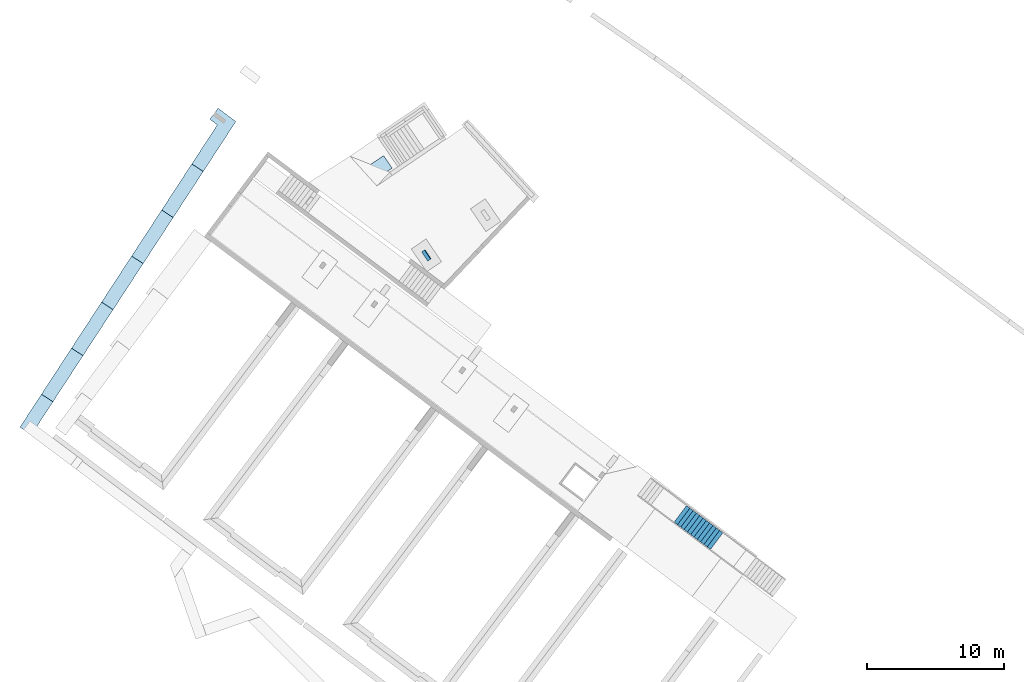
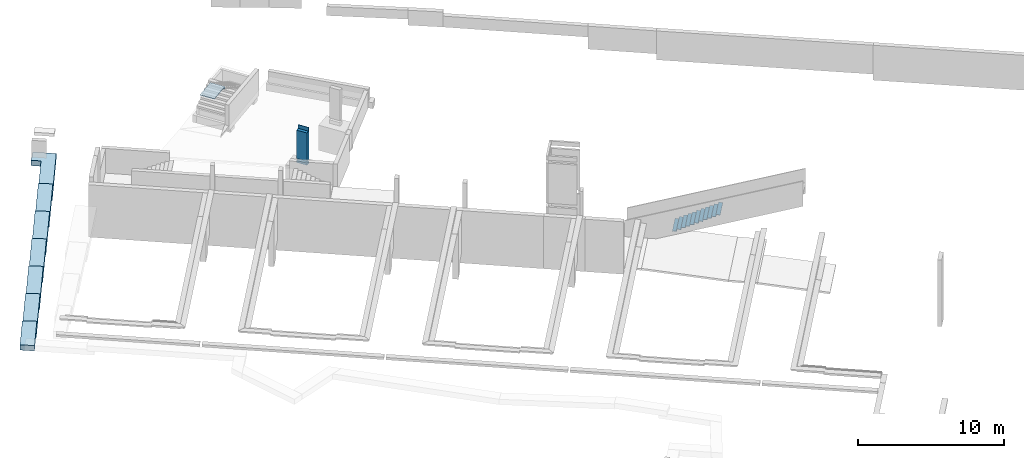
# One storey, part 5 of 11: 2 slabs, 1 column, 1 stair flight, 2 elements without a shape of their own.
"""IFC2X3 building model written with IfcOpenShell, lengths in metres."""

from ifc_helpers import new_model, entity, si_unit, converted_unit, derived_unit, direction, frame, origin, place, context, subcontext, project, spatial, faceted_brep, source, transform, mapped, material, material_list, type_object, type_shapes, element, aggregate, save


model = new_model("IFC2X3")

# Units and contexts
model_context = context("Model", 3, precision=1e-05, world=origin(), true_north=direction((6.123031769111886e-17, 1.0)))
body_context = subcontext(model_context, "Body", "Model", "MODEL_VIEW")
ifc_project = project(units=[si_unit("LENGTHUNIT", "METRE"), si_unit("AREAUNIT", "SQUARE_METRE"), si_unit("VOLUMEUNIT", "CUBIC_METRE"), converted_unit("PLANEANGLEUNIT", "DEGREE", entity("IfcRatioMeasure", 0.017453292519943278), si_unit("PLANEANGLEUNIT", "RADIAN"), dimensions=[0, 0, 0, 0, 0, 0, 0]), si_unit("MASSUNIT", "GRAM", prefix="KILO"), derived_unit("MASSDENSITYUNIT", [(si_unit("MASSUNIT", "GRAM", prefix="KILO"), 1), (si_unit("LENGTHUNIT", "METRE"), -3)]), derived_unit("IONCONCENTRATIONUNIT", [(si_unit("MASSUNIT", "GRAM", prefix="KILO"), 1), (si_unit("LENGTHUNIT", "METRE"), -3)]), derived_unit("MOMENTOFINERTIAUNIT", [(si_unit("LENGTHUNIT", "METRE"), 4)]), si_unit("TIMEUNIT", "SECOND"), si_unit("FREQUENCYUNIT", "HERTZ"), si_unit("THERMODYNAMICTEMPERATUREUNIT", "DEGREE_CELSIUS"), derived_unit("THERMALTRANSMITTANCEUNIT", [(si_unit("MASSUNIT", "GRAM", prefix="KILO"), 1), (si_unit("THERMODYNAMICTEMPERATUREUNIT", "KELVIN"), -1), (si_unit("TIMEUNIT", "SECOND"), -3)]), derived_unit("THERMALCONDUCTANCEUNIT", [(si_unit("MASSUNIT", "GRAM", prefix="KILO"), 1), (si_unit("THERMODYNAMICTEMPERATUREUNIT", "KELVIN"), -1), (si_unit("TIMEUNIT", "SECOND"), -3), (si_unit("LENGTHUNIT", "METRE"), 1)]), derived_unit("VOLUMETRICFLOWRATEUNIT", [(si_unit("LENGTHUNIT", "METRE"), 3), (si_unit("TIMEUNIT", "SECOND"), -1)]), derived_unit("MASSFLOWRATEUNIT", [(si_unit("MASSUNIT", "GRAM", prefix="KILO"), 1), (si_unit("TIMEUNIT", "SECOND"), -1)]), derived_unit("ROTATIONALFREQUENCYUNIT", [(si_unit("TIMEUNIT", "SECOND"), -1)]), si_unit("ELECTRICCURRENTUNIT", "AMPERE"), si_unit("ELECTRICVOLTAGEUNIT", "VOLT"), si_unit("POWERUNIT", "WATT"), si_unit("FORCEUNIT", "NEWTON", prefix="KILO"), si_unit("ILLUMINANCEUNIT", "LUX"), si_unit("LUMINOUSFLUXUNIT", "LUMEN"), si_unit("LUMINOUSINTENSITYUNIT", "CANDELA"), derived_unit("USERDEFINED", [(si_unit("MASSUNIT", "GRAM", prefix="KILO"), -1), (si_unit("LENGTHUNIT", "METRE"), -2), (si_unit("TIMEUNIT", "SECOND"), 3), (si_unit("LUMINOUSFLUXUNIT", "LUMEN"), 1)]), derived_unit("USERDEFINED", [(si_unit("MASSUNIT", "GRAM", prefix="KILO"), 1), (si_unit("TIMEUNIT", "SECOND"), -3), (si_unit("LENGTHUNIT", "METRE"), 3), (si_unit("ELECTRICCURRENTUNIT", "AMPERE"), -2)]), derived_unit("SOUNDPOWERUNIT", [(si_unit("MASSUNIT", "GRAM", prefix="KILO"), 1), (si_unit("TIMEUNIT", "SECOND"), -3), (si_unit("LENGTHUNIT", "METRE"), 2)]), derived_unit("SOUNDPRESSUREUNIT", [(si_unit("MASSUNIT", "GRAM", prefix="KILO"), 1), (si_unit("LENGTHUNIT", "METRE"), -1), (si_unit("TIMEUNIT", "SECOND"), -2)]), derived_unit("LINEARVELOCITYUNIT", [(si_unit("LENGTHUNIT", "METRE"), 1), (si_unit("TIMEUNIT", "SECOND"), -1)]), si_unit("PRESSUREUNIT", "PASCAL"), derived_unit("USERDEFINED", [(si_unit("MASSUNIT", "GRAM", prefix="KILO"), 1), (si_unit("LENGTHUNIT", "METRE"), -2), (si_unit("TIMEUNIT", "SECOND"), -2)]), derived_unit("LINEARFORCEUNIT", [(si_unit("MASSUNIT", "GRAM", prefix="KILO"), 1), (si_unit("TIMEUNIT", "SECOND"), -2)]), derived_unit("PLANARFORCEUNIT", [(si_unit("MASSUNIT", "GRAM", prefix="KILO"), 1), (si_unit("LENGTHUNIT", "METRE"), -1), (si_unit("TIMEUNIT", "SECOND"), -2)]), derived_unit("SPECIFICHEATCAPACITYUNIT", [(si_unit("THERMODYNAMICTEMPERATUREUNIT", "KELVIN"), -1), (si_unit("LENGTHUNIT", "METRE"), 2), (si_unit("TIMEUNIT", "SECOND"), -2)]), derived_unit("HEATINGVALUEUNIT", [(si_unit("LENGTHUNIT", "METRE"), 2), (si_unit("TIMEUNIT", "SECOND"), -2)]), derived_unit("VAPORPERMEABILITYUNIT", [(si_unit("LENGTHUNIT", "METRE"), -1), (si_unit("TIMEUNIT", "SECOND"), 1)]), derived_unit("DYNAMICVISCOSITYUNIT", [(si_unit("MASSUNIT", "GRAM", prefix="KILO"), 1), (si_unit("TIMEUNIT", "SECOND"), -1), (si_unit("LENGTHUNIT", "METRE"), -1)]), derived_unit("THERMALEXPANSIONCOEFFICIENTUNIT", [(si_unit("THERMODYNAMICTEMPERATUREUNIT", "KELVIN"), -1)]), derived_unit("MODULUSOFELASTICITYUNIT", [(si_unit("MASSUNIT", "GRAM", prefix="KILO"), 1), (si_unit("LENGTHUNIT", "METRE"), -1), (si_unit("TIMEUNIT", "SECOND"), -2)]), derived_unit("ISOTHERMALMOISTURECAPACITYUNIT", [(si_unit("LENGTHUNIT", "METRE"), 3), (si_unit("MASSUNIT", "GRAM", prefix="KILO"), -1)]), derived_unit("MOISTUREDIFFUSIVITYUNIT", [(si_unit("TIMEUNIT", "SECOND"), -1), (si_unit("LENGTHUNIT", "METRE"), 2)])], contexts=[model_context])

# Site, building, storey
site_placement = place(None, origin())
site = spatial("IfcSite", under=ifc_project, at=site_placement, Name="Default", CompositionType="ELEMENT")
building_placement = place(site_placement, frame((0.0, 0.0, 235.0), z_axis=(0.0, 0.0, 1.0), x_axis=(-0.7996477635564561, 0.6004693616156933, 0.0)))
building = spatial("IfcBuilding", under=site, at=building_placement, CompositionType="ELEMENT")
storey_placement = place(building_placement, frame((0.0, 0.0, -4.459999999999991)))
storey = spatial("IfcBuildingStorey", under=building, at=storey_placement, Name="PS1- Vestuari", CompositionType="ELEMENT", Elevation=-4.459999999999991)

# Column
ifc_material_1 = material(Name="_Formigó- T1- STR")
column_type = type_object("IfcColumnType", Name="STR- P- Formigó- Rectangular- T1:30x80 cm", PredefinedType="COLUMN", material=ifc_material_1)
shared_shape = source(origin(), body_context, "Body", "Brep", [
    faceted_brep([(0.09724667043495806, 0.5431255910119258, 0.0), (0.8540497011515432, 0.28380113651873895, 0.0), (0.7568030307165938, 0.0, 0.0), (0.0, 0.2593244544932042, 0.0), (0.8540497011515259, 0.2838011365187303, 0.18753967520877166), (0.0972466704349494, 0.5431255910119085, 0.1823531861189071), (0.0, 0.2593244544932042, 0.18802920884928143), (0.7568030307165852, 0.0, 0.19321569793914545)], [[[0, 1, 2, 3]], [[4, 5, 6, 7]], [[1, 0, 5, 4]], [[2, 1, 4, 7]], [[3, 2, 7, 6]], [[0, 3, 6, 5]]]),
    faceted_brep([(0.8540497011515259, 0.2838011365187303, 0.3375696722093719), (0.0972466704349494, 0.5431255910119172, 0.3323831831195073), (0.0972466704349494, 0.5431255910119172, 2.699999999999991), (0.8540497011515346, 0.2838011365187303, 2.699999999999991), (0.7568030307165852, 0.0, 0.34324569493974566), (0.7730108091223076, 0.04730018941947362, 2.699999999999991), (0.7730108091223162, 0.047300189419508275, 3.0), (0.7568030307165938, 0.0, 3.0), (0.0, 0.2593244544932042, 0.33805920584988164), (0.0, 0.2593244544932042, 3.0), (0.016207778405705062, 0.30662464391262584, 3.0), (0.016207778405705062, 0.3066246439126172, 2.699999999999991)], [[[0, 1, 2, 3]], [[4, 0, 3, 5, 6, 7]], [[8, 4, 7, 9]], [[1, 8, 9, 10, 11, 2]], [[1, 0, 4, 8]], [[7, 6, 10, 9]], [[5, 11, 10, 6]], [[11, 5, 3, 2]]]),
])
type_shapes(column_type, [shared_shape])
column_placement = place(storey_placement, frame((60.5777586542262, -45.30247650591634, 0.9399999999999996)))
element("IfcColumn", 1, at=column_placement, inside=storey, type_object=column_type, material=ifc_material_1, Name="STR- P- Formigó- Rectangular- T1:30x80 cm", ObjectType="STR- P- Formigó- Rectangular- T1:30x80 cm", context=body_context, shape_type="MappedRepresentation", body=[
    mapped(shared_shape, transform((0.0, 0.0, 0.0), scale=1.0)),
])

# Slab
slab_type_1 = type_object("IfcSlabType", Name="STR- S- formigó- Mp1:STR- S- formigó- Mp7", PredefinedType="BASESLAB", material=ifc_material_1)
slab_1_placement = place(storey_placement, frame((76.13815440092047, -44.49052213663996, 0.20999999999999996)))
element("IfcSlab", 2, at=slab_1_placement, inside=storey, type_object=slab_type_1, Name="STR- S- formigó- Mp1:STR- S- formigó- Mp7", ObjectType="STR- S- formigó- Mp1:STR- S- formigó- Mp7", PredefinedType="BASESLAB", context=body_context, shape_type="Brep", body=[
    faceted_brep([(1.7910725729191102, 0.0, 0.45), (2.3067834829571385, 0.0, 0.45), (3.4067670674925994, 0.0, 0.45), (3.4067670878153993, 1.0, 0.45), (2.7273834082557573, 1.0, 0.45), (2.638924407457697, 2.34323328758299, 0.45), (2.5994112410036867, 2.9432332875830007, 0.45), (2.503970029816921, 4.392490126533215, 0.45), (1.5061314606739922, 4.326777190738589, 0.45), (2.4645422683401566, 4.991193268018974, 0.0), (2.5994112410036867, 2.9432332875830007, 0.0), (2.7273834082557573, 1.0, 0.0), (3.4067670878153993, 1.0, 0.0), (3.4067670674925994, 0.0, 0.0), (2.3067834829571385, 0.0, 0.0), (1.7910725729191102, 0.0, 0.0), (1.4667036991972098, 4.92548033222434, 0.0), (1.5061314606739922, 4.326777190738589, 0.9500000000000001), (2.3067834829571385, 4.3795043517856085, 0.9500000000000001), (2.5039700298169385, 4.392490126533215, 0.9500000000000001), (2.335990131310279, 6.943233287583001, 0.9500000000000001), (2.241118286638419, 8.383844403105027, 0.9500000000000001), (1.2432797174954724, 8.318131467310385, 0.9500000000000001), (1.2038519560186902, 8.916834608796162, 0.5), (2.2016905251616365, 8.982547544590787, 0.5), (2.4645422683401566, 4.991193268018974, 0.5), (1.4667036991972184, 4.925480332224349, 0.5), (1.2038519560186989, 8.916834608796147, 1.0), (2.2016905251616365, 8.982547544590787, 1.0), (1.2432797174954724, 8.318131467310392, 1.4500000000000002), (0.9804279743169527, 12.309485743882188, 1.4500000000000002), (0.9804279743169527, 12.309485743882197, 1.9500000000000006), (0.717576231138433, 16.300840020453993, 1.9500000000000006), (0.7175762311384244, 16.300840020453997, 2.45), (0.4547244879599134, 20.292194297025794, 2.45), (0.4547244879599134, 20.292194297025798, 2.95), (0.19187274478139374, 24.2835485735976, 2.95), (0.19187274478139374, 24.283548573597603, 3.45), (0.0, 27.197100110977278, 3.45), (0.0, 27.197100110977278, 3.0), (0.15244498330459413, 24.88225171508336, 3.0), (0.15244498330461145, 24.88225171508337, 2.4999999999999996), (0.41529672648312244, 20.890897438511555, 2.4999999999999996), (0.41529672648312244, 20.89089743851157, 2.0), (0.6781484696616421, 16.899543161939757, 2.0), (0.6781484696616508, 16.899543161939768, 1.5000000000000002), (0.9410002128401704, 12.908188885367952, 1.5000000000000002), (0.9410002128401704, 12.908188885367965, 1.0), (2.5039700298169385, 4.392490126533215, 0.8), (1.938838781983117, 12.97390182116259, 1.0), (1.938838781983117, 12.97390182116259, 1.5000000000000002), (1.6759870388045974, 16.965256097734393, 1.5000000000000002), (1.6759870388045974, 16.965256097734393, 2.0), (1.413135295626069, 20.956610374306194, 2.0), (1.4131352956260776, 20.956610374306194, 2.4999999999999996), (1.150283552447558, 24.947964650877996, 2.4999999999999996), (1.150283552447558, 24.947964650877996, 3.0), (1.0021661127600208, 27.197100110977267, 3.0), (1.0021661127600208, 27.197100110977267, 3.45), (1.189711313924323, 24.34926150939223, 3.45), (1.1897113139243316, 24.349261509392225, 2.95), (1.4525630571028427, 20.357907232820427, 2.95), (1.4525630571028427, 20.357907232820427, 2.45), (1.715414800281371, 16.36655295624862, 2.45), (1.7154148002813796, 16.366552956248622, 1.9500000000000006), (1.9782665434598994, 12.375198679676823, 1.9500000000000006), (1.9782665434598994, 12.375198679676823, 1.4500000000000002), (2.241118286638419, 8.383844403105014, 1.4500000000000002)], [[[0, 1, 2, 3, 4, 5, 6, 7, 8]], [[9, 10, 11, 12, 13, 14, 15, 16]], [[2, 1, 0, 15, 14, 13]], [[3, 2, 13, 12]], [[4, 3, 12, 11]], [[17, 18, 19, 20, 21, 22]], [[23, 24, 25, 26]], [[24, 23, 27, 28]], [[23, 26, 16, 15, 0, 8, 17, 22, 29, 30, 31, 32, 33, 34, 35, 36, 37, 38, 39, 40, 41, 42, 43, 44, 45, 46, 47, 27]], [[19, 18, 17, 8, 7, 48]], [[25, 24, 28, 49, 50, 51, 52, 53, 54, 55, 56, 57, 58, 59, 60, 61, 62, 63, 64, 65, 66, 67, 21, 20, 19, 48, 7, 6, 5, 4, 11, 10, 9]], [[26, 25, 9, 16]], [[29, 67, 66, 30]], [[47, 49, 28, 27]], [[49, 47, 46, 50]], [[67, 29, 22, 21]], [[30, 66, 65, 31]], [[31, 65, 64, 32]], [[45, 51, 50, 46]], [[51, 45, 44, 52]], [[32, 64, 63, 33]], [[33, 63, 62, 34]], [[43, 53, 52, 44]], [[53, 43, 42, 54]], [[34, 62, 61, 35]], [[35, 61, 60, 36]], [[41, 55, 54, 42]], [[55, 41, 40, 56]], [[37, 36, 60, 59]], [[58, 38, 37, 59]], [[39, 57, 56, 40]], [[38, 58, 57, 39]]]),
])

# Stair, slab
stair_1_placement = place(storey_placement, origin())
stair_1 = element("IfcStair", 3, at=stair_1_placement, inside=storey, Name="Escalera moldeada in situ:Escalera", ShapeType="STRAIGHT_RUN_STAIR")
ifc_material_2 = material(Name="_PAV escales STR")
ifc_material_3 = material(Name="_Acer- STR")
ifc_material_list = material_list([ifc_material_2, ifc_material_3])
slab_type_2 = type_object("IfcSlabType", Name="Descansillo monolítico:STR- Repla acer", PredefinedType="LANDING")
slab_2_placement = place(stair_1_placement, frame((66.80926125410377, -48.9620516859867, 0.0)))
slab_2 = element("IfcSlab", 4, at=slab_2_placement, type_object=slab_type_2, material=ifc_material_list, Name="Escalera moldeada in situ:Escalera:92117 Landing 1", ObjectType="Descansillo monolítico:STR- Repla acer", PredefinedType="LANDING", context=body_context, shape_type="Brep", body=[
    faceted_brep([(0.0, 0.35657112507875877, 4.339999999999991), (1.0406041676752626, 0.0, 4.339999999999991), (1.5722510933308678, 1.5516861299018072, 4.339999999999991), (0.5316469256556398, 1.9082572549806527, 4.339999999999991), (0.0, 0.35657112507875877, 4.309999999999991), (0.5316469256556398, 1.9082572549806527, 4.309999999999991), (1.5722510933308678, 1.5516861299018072, 4.309999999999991), (1.0406041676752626, 0.0, 4.309999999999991)], [[[0, 1, 2, 3]], [[4, 5, 6, 7]], [[1, 0, 4, 7]], [[2, 1, 7, 6]], [[3, 2, 6, 5]], [[0, 3, 5, 4]]]),
    faceted_brep([(0.0, 0.35657112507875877, 4.309999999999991), (1.0406041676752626, 0.0, 4.309999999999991), (1.043845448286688, 0.009460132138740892, 4.309999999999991), (1.5722510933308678, 1.5516861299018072, 4.309999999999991), (0.5316469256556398, 1.9082572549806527, 4.309999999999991), (0.0032412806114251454, 0.3660312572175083, 4.309999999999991), (1.0406041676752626, 0.0, 4.123999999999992), (1.0438454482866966, 0.009460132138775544, 4.123999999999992), (1.0438454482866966, 0.009460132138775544, 4.299999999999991), (1.5722510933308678, 1.5516861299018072, 4.299999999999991), (0.5316469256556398, 1.9082572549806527, 4.299999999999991), (0.0, 0.35657112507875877, 4.123999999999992), (0.0032412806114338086, 0.3660312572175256, 4.299999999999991), (0.0032412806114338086, 0.3660312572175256, 4.123999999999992)], [[[0, 1, 2, 3, 4, 5]], [[1, 6, 7, 8, 9, 3, 2]], [[4, 3, 9, 10]], [[11, 0, 5, 4, 10, 12, 13]], [[1, 0, 11, 6]], [[8, 12, 10, 9]], [[13, 7, 6, 11]], [[7, 13, 12, 8]]]),
])
aggregate(stair_1, [slab_2])

# Stair, stair flight
stair_2_placement = place(storey_placement, origin())
stair_2 = element("IfcStair", 5, at=stair_2_placement, inside=storey, Name="Escalera moldeada in situ:Escalera", ObjectType="Escalera moldeada in situ:E-A1", ShapeType="NOTDEFINED")
stair_flight_type = type_object("IfcStairFlightType", Name="Tramo monolítico:E00- STR- Acer", PredefinedType="STRAIGHT")
stair_flight_placement = place(stair_2_placement, frame((31.64514768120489, -41.83719175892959, 0.0)))
stair_flight = element("IfcStairFlight", 6, at=stair_flight_placement, type_object=stair_flight_type, material=ifc_material_list, Name="Escalera moldeada in situ:Escalera:43273 Run 2", ObjectType="Tramo monolítico:E00- STR- Acer", NumberOfRiser=12, NumberOfTreads=11, RiserHeight=0.5249343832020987, TreadLength=0.9842519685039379, context=body_context, shape_type="Brep", body=[
    faceted_brep([(3.0, 0.0, 0.7199999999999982), (3.3000000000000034, 0.0, 0.7199999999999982), (3.3000000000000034, 1.5000000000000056, 0.7199999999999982), (3.0, 1.5000000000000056, 0.7199999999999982), (3.0, 0.0, 0.689999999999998), (3.0, 1.5000000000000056, 0.689999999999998), (3.3000000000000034, 1.5000000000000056, 0.689999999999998), (3.3000000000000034, 0.0, 0.689999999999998)], [[[0, 1, 2, 3]], [[4, 5, 6, 7]], [[1, 0, 4, 7]], [[2, 1, 7, 6]], [[3, 2, 6, 5]], [[0, 3, 5, 4]]]),
    faceted_brep([(2.7000000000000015, 0.0, 0.8799999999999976), (3.0, 0.0, 0.8799999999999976), (3.0, 1.5000000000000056, 0.8799999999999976), (2.7000000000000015, 1.5000000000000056, 0.8799999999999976), (2.7000000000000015, 0.0, 0.8499999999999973), (2.7000000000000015, 1.5000000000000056, 0.8499999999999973), (3.0, 1.5000000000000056, 0.8499999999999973), (3.0, 0.0, 0.8499999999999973)], [[[0, 1, 2, 3]], [[4, 5, 6, 7]], [[1, 0, 4, 7]], [[2, 1, 7, 6]], [[3, 2, 6, 5]], [[0, 3, 5, 4]]]),
    faceted_brep([(2.4000000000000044, 0.0, 1.0399999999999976), (2.7000000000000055, 0.0, 1.0399999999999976), (2.7000000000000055, 1.5000000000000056, 1.0399999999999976), (2.4000000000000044, 1.5000000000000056, 1.0399999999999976), (2.4000000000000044, 0.0, 1.0099999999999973), (2.4000000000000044, 1.5000000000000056, 1.0099999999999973), (2.7000000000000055, 1.5000000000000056, 1.0099999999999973), (2.7000000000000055, 0.0, 1.0099999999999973)], [[[0, 1, 2, 3]], [[4, 5, 6, 7]], [[1, 0, 4, 7]], [[2, 1, 7, 6]], [[3, 2, 6, 5]], [[0, 3, 5, 4]]]),
    faceted_brep([(2.100000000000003, 0.0, 1.1999999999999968), (2.4000000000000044, 0.0, 1.1999999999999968), (2.4000000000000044, 1.5000000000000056, 1.1999999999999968), (2.100000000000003, 1.5000000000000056, 1.1999999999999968), (2.100000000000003, 0.0, 1.1699999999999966), (2.100000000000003, 1.5000000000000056, 1.1699999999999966), (2.4000000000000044, 1.5000000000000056, 1.1699999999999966), (2.4000000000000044, 0.0, 1.1699999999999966)], [[[0, 1, 2, 3]], [[4, 5, 6, 7]], [[1, 0, 4, 7]], [[2, 1, 7, 6]], [[3, 2, 6, 5]], [[0, 3, 5, 4]]]),
    faceted_brep([(1.7999999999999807, 0.0, 1.3599999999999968), (2.099999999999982, 0.0, 1.3599999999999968), (2.099999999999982, 1.5000000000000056, 1.3599999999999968), (1.7999999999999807, 1.5000000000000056, 1.3599999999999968), (1.7999999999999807, 0.0, 1.3299999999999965), (1.7999999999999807, 1.5000000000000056, 1.3299999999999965), (2.099999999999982, 1.5000000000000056, 1.3299999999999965), (2.099999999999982, 0.0, 1.3299999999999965)], [[[0, 1, 2, 3]], [[4, 5, 6, 7]], [[1, 0, 4, 7]], [[2, 1, 7, 6]], [[3, 2, 6, 5]], [[0, 3, 5, 4]]]),
    faceted_brep([(1.500000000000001, 0.0, 1.5199999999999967), (1.8000000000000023, 0.0, 1.5199999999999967), (1.8000000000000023, 1.5000000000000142, 1.5199999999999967), (1.500000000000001, 1.5000000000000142, 1.5199999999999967), (1.500000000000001, 0.0, 1.4899999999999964), (1.500000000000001, 1.5000000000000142, 1.4899999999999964), (1.8000000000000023, 1.5000000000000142, 1.4899999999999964), (1.8000000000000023, 0.0, 1.4899999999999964)], [[[0, 1, 2, 3]], [[4, 5, 6, 7]], [[1, 0, 4, 7]], [[2, 1, 7, 6]], [[3, 2, 6, 5]], [[0, 3, 5, 4]]]),
    faceted_brep([(1.2000000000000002, 0.0, 1.679999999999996), (1.500000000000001, 0.0, 1.679999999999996), (1.500000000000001, 1.5000000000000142, 1.679999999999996), (1.2000000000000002, 1.5000000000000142, 1.679999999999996), (1.2000000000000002, 0.0, 1.6499999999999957), (1.2000000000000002, 1.5000000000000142, 1.6499999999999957), (1.500000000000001, 1.5000000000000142, 1.6499999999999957), (1.500000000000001, 0.0, 1.6499999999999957)], [[[0, 1, 2, 3]], [[4, 5, 6, 7]], [[1, 0, 4, 7]], [[2, 1, 7, 6]], [[3, 2, 6, 5]], [[0, 3, 5, 4]]]),
    faceted_brep([(0.9000000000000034, 0.0, 1.8399999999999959), (1.2000000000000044, 0.0, 1.8399999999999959), (1.2000000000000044, 1.5000000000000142, 1.8399999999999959), (0.9000000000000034, 1.5000000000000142, 1.8399999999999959), (0.9000000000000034, 0.0, 1.8099999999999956), (0.9000000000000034, 1.5000000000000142, 1.8099999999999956), (1.2000000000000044, 1.5000000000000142, 1.8099999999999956), (1.2000000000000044, 0.0, 1.8099999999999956)], [[[0, 1, 2, 3]], [[4, 5, 6, 7]], [[1, 0, 4, 7]], [[2, 1, 7, 6]], [[3, 2, 6, 5]], [[0, 3, 5, 4]]]),
    faceted_brep([(0.6000000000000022, 0.0, 2.0), (0.9000000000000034, 0.0, 2.0), (0.9000000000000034, 1.5000000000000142, 2.0), (0.6000000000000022, 1.5000000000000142, 2.0), (0.6000000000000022, 0.0, 1.9699999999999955), (0.6000000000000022, 1.5000000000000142, 1.9699999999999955), (0.9000000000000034, 1.5000000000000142, 1.9699999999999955), (0.9000000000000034, 0.0, 1.9699999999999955)], [[[0, 1, 2, 3]], [[4, 5, 6, 7]], [[1, 0, 4, 7]], [[2, 1, 7, 6]], [[3, 2, 6, 5]], [[0, 3, 5, 4]]]),
    faceted_brep([(0.3000000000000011, 0.0, 2.1599999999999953), (0.6000000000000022, 0.0, 2.1599999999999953), (0.6000000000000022, 1.5000000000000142, 2.1599999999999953), (0.3000000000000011, 1.5000000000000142, 2.1599999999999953), (0.3000000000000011, 0.0, 2.1299999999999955), (0.3000000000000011, 1.5000000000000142, 2.1299999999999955), (0.6000000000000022, 1.5000000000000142, 2.1299999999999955), (0.6000000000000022, 0.0, 2.1299999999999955)], [[[0, 1, 2, 3]], [[4, 5, 6, 7]], [[1, 0, 4, 7]], [[2, 1, 7, 6]], [[3, 2, 6, 5]], [[0, 3, 5, 4]]]),
    faceted_brep([(0.0, 0.0, 2.3199999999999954), (0.3000000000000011, 0.0, 2.3199999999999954), (0.3000000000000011, 1.5000000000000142, 2.3199999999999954), (0.0, 1.5000000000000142, 2.3199999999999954), (0.0, 0.0, 2.289999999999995), (0.0, 1.5000000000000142, 2.289999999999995), (0.3000000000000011, 1.5000000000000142, 2.289999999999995), (0.3000000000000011, 0.0, 2.289999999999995)], [[[0, 1, 2, 3]], [[4, 5, 6, 7]], [[1, 0, 4, 7]], [[2, 1, 7, 6]], [[3, 2, 6, 5]], [[0, 3, 5, 4]]]),
    faceted_brep([(3.3000000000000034, 0.0, 0.689999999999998), (3.3000000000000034, 1.5000000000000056, 0.689999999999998), (3.2900000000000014, 1.5000000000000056, 0.689999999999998), (3.0, 1.5000000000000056, 0.689999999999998), (3.0, 0.0, 0.689999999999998), (3.2900000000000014, 0.0, 0.689999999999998), (3.0, 0.0, 0.679999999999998), (3.2900000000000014, 0.0, 0.679999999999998), (3.2900000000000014, 0.0, 0.5199999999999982), (3.3000000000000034, 0.0, 0.5199999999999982), (3.3000000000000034, 0.0, 0.5299999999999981), (3.3000000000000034, 1.5000000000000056, 0.5199999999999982), (3.3000000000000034, 1.5000000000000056, 0.5299999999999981), (3.2900000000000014, 1.5000000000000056, 0.5199999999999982), (3.2900000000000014, 1.5000000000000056, 0.679999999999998), (3.0, 1.5000000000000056, 0.679999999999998), (2.7000000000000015, 0.0, 0.8499999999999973), (3.0, 0.0, 0.8499999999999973), (3.0, 1.5000000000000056, 0.8499999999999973), (2.7000000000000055, 1.5000000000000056, 0.8499999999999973), (2.7000000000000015, 0.0, 0.8399999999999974), (2.99, 0.0, 0.8399999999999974), (2.99, 0.0, 0.679999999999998), (2.99, 1.5000000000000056, 0.679999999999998), (2.99, 1.5000000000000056, 0.8399999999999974), (2.7000000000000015, 1.5000000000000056, 0.8399999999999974), (2.4000000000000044, 0.0, 1.0099999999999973), (2.7000000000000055, 0.0, 1.0099999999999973), (2.7000000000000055, 1.5000000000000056, 1.0099999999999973), (2.4000000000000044, 1.5000000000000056, 1.0099999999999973), (2.4000000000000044, 0.0, 1.0), (2.689999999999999, 0.0, 1.0), (2.689999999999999, 0.0, 0.8399999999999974), (2.689999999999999, 1.5000000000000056, 0.8399999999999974), (2.689999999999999, 1.5000000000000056, 1.0), (2.4000000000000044, 1.5000000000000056, 1.0), (2.100000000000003, 0.0, 1.1699999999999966), (2.4000000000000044, 0.0, 1.1699999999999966), (2.4000000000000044, 1.5000000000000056, 1.1699999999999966), (2.099999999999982, 1.5000000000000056, 1.1699999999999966), (2.100000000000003, 0.0, 1.1599999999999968), (2.3900000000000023, 0.0, 1.1599999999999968), (2.3900000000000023, 0.0, 1.0), (2.3900000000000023, 1.5000000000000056, 1.0), (2.3900000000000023, 1.5000000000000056, 1.1599999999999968), (2.100000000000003, 1.5000000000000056, 1.1599999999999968), (1.7999999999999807, 0.0, 1.3299999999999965), (2.099999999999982, 0.0, 1.3299999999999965), (2.099999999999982, 1.5000000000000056, 1.3299999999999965), (1.8000000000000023, 1.5000000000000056, 1.3299999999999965), (1.7999999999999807, 0.0, 1.3199999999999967), (2.090000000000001, 0.0, 1.3199999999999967), (2.090000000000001, 0.0, 1.1599999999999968), (2.090000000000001, 1.5000000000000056, 1.1599999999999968), (2.090000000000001, 1.5000000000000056, 1.3199999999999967), (1.7999999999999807, 1.5000000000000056, 1.3199999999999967), (1.500000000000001, 0.0, 1.4899999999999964), (1.8000000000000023, 0.0, 1.4899999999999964), (1.8000000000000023, 1.5000000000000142, 1.4899999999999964), (1.500000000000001, 1.5000000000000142, 1.4899999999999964), (1.500000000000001, 0.0, 1.4799999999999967), (1.7899999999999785, 0.0, 1.4799999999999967), (1.7899999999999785, 0.0, 1.3199999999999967), (1.7900000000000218, 1.5000000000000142, 1.3199999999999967), (1.7900000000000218, 1.5000000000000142, 1.4799999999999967), (1.500000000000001, 1.5000000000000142, 1.4799999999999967), (1.2000000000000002, 0.0, 1.6499999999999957), (1.500000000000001, 0.0, 1.6499999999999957), (1.500000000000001, 1.5000000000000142, 1.6499999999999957), (1.2000000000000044, 1.5000000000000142, 1.6499999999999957), (1.2000000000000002, 0.0, 1.639999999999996), (1.489999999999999, 0.0, 1.639999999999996), (1.489999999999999, 0.0, 1.4799999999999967), (1.489999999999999, 1.5000000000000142, 1.4799999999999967), (1.489999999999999, 1.5000000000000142, 1.639999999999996), (1.2000000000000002, 1.5000000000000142, 1.639999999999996), (0.9000000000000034, 0.0, 1.8099999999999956), (1.2000000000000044, 0.0, 1.8099999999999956), (1.2000000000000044, 1.5000000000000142, 1.8099999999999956), (0.9000000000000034, 1.5000000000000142, 1.8099999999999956), (0.9000000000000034, 0.0, 1.7999999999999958), (1.189999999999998, 0.0, 1.7999999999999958), (1.189999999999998, 0.0, 1.639999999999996), (1.189999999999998, 1.5000000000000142, 1.639999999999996), (1.189999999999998, 1.5000000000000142, 1.7999999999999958), (0.9000000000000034, 1.5000000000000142, 1.7999999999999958), (0.6000000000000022, 0.0, 1.9699999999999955), (0.9000000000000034, 0.0, 1.9699999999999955), (0.9000000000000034, 1.5000000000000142, 1.9699999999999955), (0.6000000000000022, 1.5000000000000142, 1.9699999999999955), (0.6000000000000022, 0.0, 1.9599999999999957), (0.8900000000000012, 0.0, 1.9599999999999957), (0.8900000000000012, 0.0, 1.7999999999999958), (0.8900000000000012, 1.5000000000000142, 1.7999999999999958), (0.8900000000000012, 1.5000000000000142, 1.9599999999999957), (0.6000000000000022, 1.5000000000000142, 1.9599999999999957), (0.3000000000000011, 0.0, 2.1299999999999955), (0.6000000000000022, 0.0, 2.1299999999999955), (0.6000000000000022, 1.5000000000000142, 2.1299999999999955), (0.3000000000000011, 1.5000000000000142, 2.1299999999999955), (0.3000000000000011, 0.0, 2.119999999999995), (0.5900000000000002, 0.0, 2.119999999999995), (0.5900000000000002, 0.0, 1.9599999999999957), (0.5900000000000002, 1.5000000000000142, 1.9599999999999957), (0.5900000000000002, 1.5000000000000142, 2.119999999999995), (0.3000000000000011, 1.5000000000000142, 2.119999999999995), (0.0, 0.0, 2.289999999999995), (0.3000000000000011, 0.0, 2.289999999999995), (0.3000000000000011, 1.5000000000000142, 2.289999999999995), (0.0, 1.5000000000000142, 2.289999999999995), (0.0, 0.0, 2.2799999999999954), (0.28999999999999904, 0.0, 2.2799999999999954), (0.28999999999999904, 0.0, 2.119999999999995), (0.28999999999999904, 1.5000000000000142, 2.119999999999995), (0.28999999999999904, 1.5000000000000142, 2.2799999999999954), (0.0, 1.5000000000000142, 2.2799999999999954)], [[[0, 1, 2, 3, 4, 5]], [[4, 6, 7, 8, 9, 10, 0, 5]], [[1, 0, 10, 9, 11, 12]], [[1, 12, 11, 13, 14, 15, 3, 2]], [[16, 17, 18, 19]], [[17, 16, 20, 21, 22, 6, 4]], [[4, 3, 18, 17]], [[19, 18, 3, 15, 23, 24, 25]], [[26, 27, 28, 29]], [[27, 26, 30, 31, 32, 20, 16]], [[16, 19, 28, 27]], [[29, 28, 19, 25, 33, 34, 35]], [[36, 37, 38, 39]], [[37, 36, 40, 41, 42, 30, 26]], [[26, 29, 38, 37]], [[39, 38, 29, 35, 43, 44, 45]], [[46, 47, 48, 49]], [[47, 46, 50, 51, 52, 40, 36]], [[36, 39, 48, 47]], [[49, 48, 39, 45, 53, 54, 55]], [[56, 57, 58, 59]], [[57, 56, 60, 61, 62, 50, 46]], [[46, 49, 58, 57]], [[59, 58, 49, 55, 63, 64, 65]], [[66, 67, 68, 69]], [[67, 66, 70, 71, 72, 60, 56]], [[56, 59, 68, 67]], [[69, 68, 59, 65, 73, 74, 75]], [[76, 77, 78, 79]], [[77, 76, 80, 81, 82, 70, 66]], [[66, 69, 78, 77]], [[79, 78, 69, 75, 83, 84, 85]], [[86, 87, 88, 89]], [[87, 86, 90, 91, 92, 80, 76]], [[76, 79, 88, 87]], [[89, 88, 79, 85, 93, 94, 95]], [[96, 97, 98, 99]], [[97, 96, 100, 101, 102, 90, 86]], [[86, 89, 98, 97]], [[99, 98, 89, 95, 103, 104, 105]], [[106, 107, 108, 109]], [[107, 106, 110, 111, 112, 100, 96]], [[96, 99, 108, 107]], [[109, 108, 99, 105, 113, 114, 115]], [[106, 109, 115, 110]], [[8, 13, 11, 9]], [[22, 23, 15, 14, 7, 6]], [[32, 33, 25, 24, 21, 20]], [[42, 43, 35, 34, 31, 30]], [[52, 53, 45, 44, 41, 40]], [[62, 63, 55, 54, 51, 50]], [[72, 73, 65, 64, 61, 60]], [[82, 83, 75, 74, 71, 70]], [[92, 93, 85, 84, 81, 80]], [[102, 103, 95, 94, 91, 90]], [[112, 113, 105, 104, 101, 100]], [[114, 111, 110, 115]], [[23, 22, 21, 24]], [[33, 32, 31, 34]], [[43, 42, 41, 44]], [[53, 52, 51, 54]], [[63, 62, 61, 64]], [[73, 72, 71, 74]], [[83, 82, 81, 84]], [[93, 92, 91, 94]], [[103, 102, 101, 104]], [[113, 112, 111, 114]], [[13, 8, 7, 14]]]),
])
aggregate(stair_2, [stair_flight])

save(model, "model.ifc")
